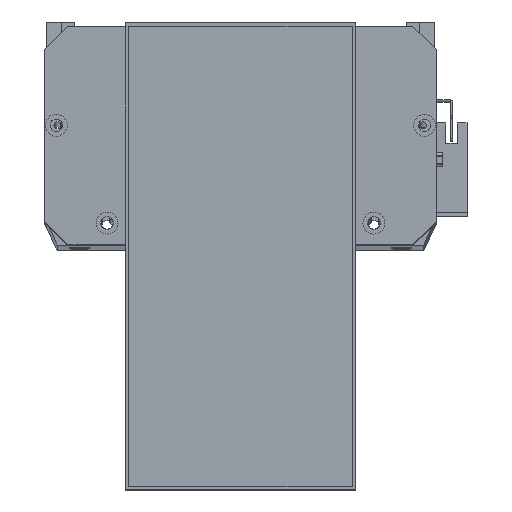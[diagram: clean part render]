
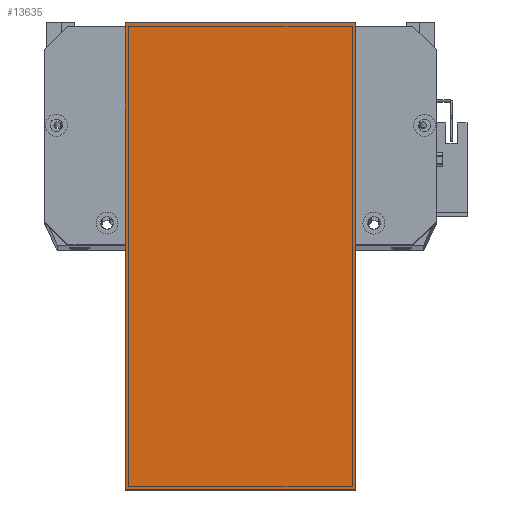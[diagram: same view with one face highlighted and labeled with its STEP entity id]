
A CAD part, top view. The second image highlights one B-rep face of the part: STEP entity #13635.
In plain terms, the highlighted planar face has unit normal (0, 0, 1) as drawn and (0, 0, -1) by its records, which use the part's own axes.
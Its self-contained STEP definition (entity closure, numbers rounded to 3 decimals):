
#198 = ORIENTED_EDGE ( 'NONE', *, *, #25101, .F. ) ;
#1194 = VECTOR ( 'NONE', #20846, 1000. ) ;
#1977 = EDGE_CURVE ( 'NONE', #9423, #8884, #19141, .T. ) ;
#3817 = ORIENTED_EDGE ( 'NONE', *, *, #1977, .T. ) ;
#5241 = VERTEX_POINT ( 'NONE', #17211 ) ;
#6253 = CARTESIAN_POINT ( 'NONE',  ( 203., 119.5, 0. ) ) ;
#7116 = LINE ( 'NONE', #28199, #28981 ) ;
#8884 = VERTEX_POINT ( 'NONE', #6253 ) ;
#9423 = VERTEX_POINT ( 'NONE', #12629 ) ;
#11026 = ORIENTED_EDGE ( 'NONE', *, *, #12276, .F. ) ;
#11620 = FACE_OUTER_BOUND ( 'NONE', #17493, .T. ) ;
#12276 = EDGE_CURVE ( 'NONE', #5241, #14332, #7116, .T. ) ;
#12629 = CARTESIAN_POINT ( 'NONE',  ( 0., 119.5, 0. ) ) ;
#13114 = VECTOR ( 'NONE', #23051, 1000. ) ;
#13390 = CARTESIAN_POINT ( 'NONE',  ( 0., 0., 0. ) ) ;
#13635 = ADVANCED_FACE ( 'NONE', ( #11620 ), #24711, .T. ) ;
#14332 = VERTEX_POINT ( 'NONE', #18291 ) ;
#15760 = DIRECTION ( 'NONE',  ( -1., 0., 0. ) ) ;
#15957 = LINE ( 'NONE', #22420, #27233 ) ;
#16563 = ORIENTED_EDGE ( 'NONE', *, *, #20160, .F. ) ;
#17211 = CARTESIAN_POINT ( 'NONE',  ( 0., 19.5, 0. ) ) ;
#17493 = EDGE_LOOP ( 'NONE', ( #11026, #198, #3817, #16563 ) ) ;
#18291 = CARTESIAN_POINT ( 'NONE',  ( 203., 19.5, 0. ) ) ;
#18540 = CARTESIAN_POINT ( 'NONE',  ( -12., 119.5, 0. ) ) ;
#18569 = CARTESIAN_POINT ( 'NONE',  ( 0., 0., 0. ) ) ;
#19085 = AXIS2_PLACEMENT_3D ( 'NONE', #13390, #29266, #15760 ) ;
#19141 = LINE ( 'NONE', #18540, #13114 ) ;
#20160 = EDGE_CURVE ( 'NONE', #14332, #8884, #15957, .T. ) ;
#20846 = DIRECTION ( 'NONE',  ( 0., -1., 0. ) ) ;
#21509 = DIRECTION ( 'NONE',  ( 1., 0., 0. ) ) ;
#22420 = CARTESIAN_POINT ( 'NONE',  ( 203., 0., 0. ) ) ;
#23051 = DIRECTION ( 'NONE',  ( 1., 0., 0. ) ) ;
#24711 = PLANE ( 'NONE',  #19085 ) ;
#25101 = EDGE_CURVE ( 'NONE', #9423, #5241, #25215, .T. ) ;
#25215 = LINE ( 'NONE', #18569, #1194 ) ;
#27233 = VECTOR ( 'NONE', #29209, 1000. ) ;
#28199 = CARTESIAN_POINT ( 'NONE',  ( -12., 19.5, 0. ) ) ;
#28981 = VECTOR ( 'NONE', #21509, 1000. ) ;
#29209 = DIRECTION ( 'NONE',  ( 0., 1., 0. ) ) ;
#29266 = DIRECTION ( 'NONE',  ( 0., 0., -1. ) ) ;
